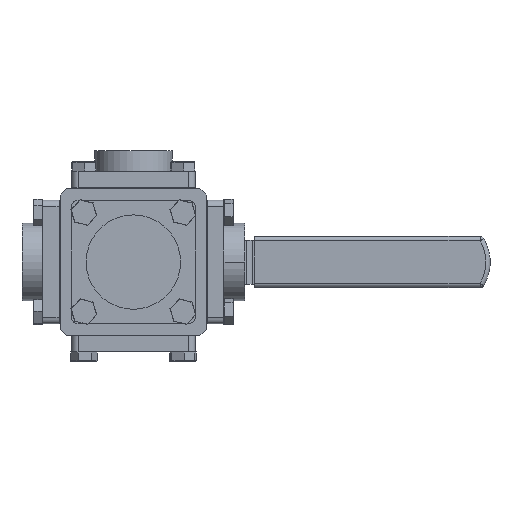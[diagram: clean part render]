
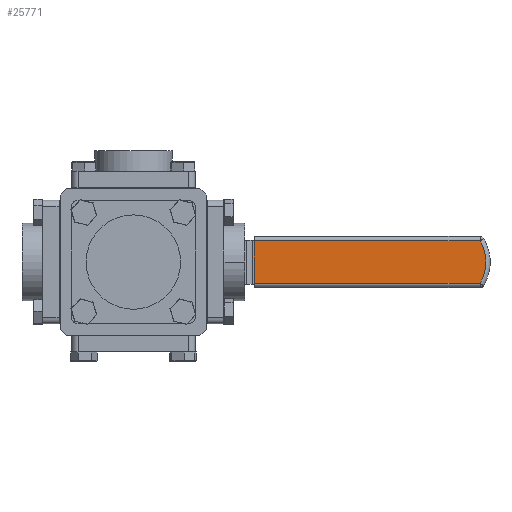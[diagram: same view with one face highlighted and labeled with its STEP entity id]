
A CAD part, front view. The second image highlights one B-rep face of the part: STEP entity #25771.
In plain terms, the highlighted planar face has unit normal (0, -1, 0).
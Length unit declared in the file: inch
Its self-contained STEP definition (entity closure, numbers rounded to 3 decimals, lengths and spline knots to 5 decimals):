
#877 = DIRECTION ( 'NONE',  ( 0., 0., 1. ) ) ;
#2358 = CARTESIAN_POINT ( 'NONE',  ( 3.51446, 5.60371, -0.61726 ) ) ;
#3833 = CARTESIAN_POINT ( 'NONE',  ( 8.99801, 5.60371, 0. ) ) ;
#4358 = DIRECTION ( 'NONE',  ( 0., -1., 0. ) ) ;
#5745 = DIRECTION ( 'NONE',  ( -1., 0., 0. ) ) ;
#5795 = PLANE ( 'NONE',  #11572 ) ;
#6200 = VERTEX_POINT ( 'NONE', #9155 ) ;
#6266 = EDGE_CURVE ( 'NONE', #19095, #6200, #9601, .T. ) ;
#6903 = DIRECTION ( 'NONE',  ( 0., 0., 1. ) ) ;
#7808 = ORIENTED_EDGE ( 'NONE', *, *, #10344, .T. ) ;
#8185 = CIRCLE ( 'NONE', #15304, 1.2275 ) ;
#8507 = LINE ( 'NONE', #15188, #18243 ) ;
#9155 = CARTESIAN_POINT ( 'NONE',  ( 3.51446, 5.60371, 0.61726 ) ) ;
#9459 = EDGE_CURVE ( 'NONE', #19095, #15551, #8507, .T. ) ;
#9601 = LINE ( 'NONE', #23277, #23556 ) ;
#10344 = EDGE_CURVE ( 'NONE', #15551, #24214, #8185, .T. ) ;
#11572 = AXIS2_PLACEMENT_3D ( 'NONE', #3833, #17246, #877 ) ;
#12119 = CARTESIAN_POINT ( 'NONE',  ( 3.51446, 5.60371, 0.61726 ) ) ;
#12609 = FACE_OUTER_BOUND ( 'NONE', #27600, .T. ) ;
#15188 = CARTESIAN_POINT ( 'NONE',  ( 10.12863, 5.60371, -0.61726 ) ) ;
#15304 = AXIS2_PLACEMENT_3D ( 'NONE', #24712, #4358, #6903 ) ;
#15360 = ORIENTED_EDGE ( 'NONE', *, *, #6266, .F. ) ;
#15474 = DIRECTION ( 'NONE',  ( 1., 0., 0. ) ) ;
#15551 = VERTEX_POINT ( 'NONE', #15893 ) ;
#15893 = CARTESIAN_POINT ( 'NONE',  ( 10.05902, 5.60371, -0.61726 ) ) ;
#15972 = ORIENTED_EDGE ( 'NONE', *, *, #24992, .T. ) ;
#16006 = DIRECTION ( 'NONE',  ( 0., 0., 1. ) ) ;
#16343 = CARTESIAN_POINT ( 'NONE',  ( 10.05902, 5.60371, 0.61726 ) ) ;
#17192 = LINE ( 'NONE', #12119, #28166 ) ;
#17246 = DIRECTION ( 'NONE',  ( 0., 1., 0. ) ) ;
#18243 = VECTOR ( 'NONE', #15474, 39.37008 ) ;
#19095 = VERTEX_POINT ( 'NONE', #2358 ) ;
#23277 = CARTESIAN_POINT ( 'NONE',  ( 3.51446, 5.60371, 0.74226 ) ) ;
#23556 = VECTOR ( 'NONE', #16006, 39.37008 ) ;
#24214 = VERTEX_POINT ( 'NONE', #16343 ) ;
#24712 = CARTESIAN_POINT ( 'NONE',  ( 8.99801, 5.60371, 0. ) ) ;
#24992 = EDGE_CURVE ( 'NONE', #24214, #6200, #17192, .T. ) ;
#25771 = ADVANCED_FACE ( 'NONE', ( #12609 ), #5795, .F. ) ;
#27382 = ORIENTED_EDGE ( 'NONE', *, *, #9459, .T. ) ;
#27600 = EDGE_LOOP ( 'NONE', ( #15360, #27382, #7808, #15972 ) ) ;
#28166 = VECTOR ( 'NONE', #5745, 39.37008 ) ;
